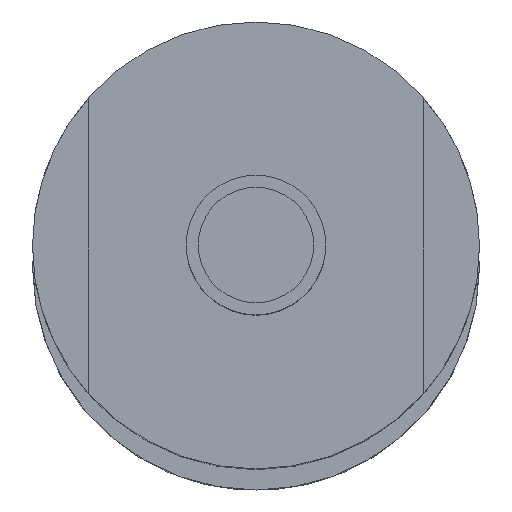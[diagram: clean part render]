
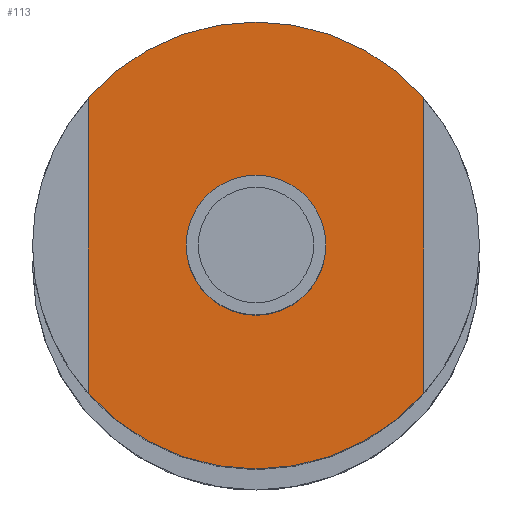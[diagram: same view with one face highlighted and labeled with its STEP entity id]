
A CAD part, top view. The second image highlights one B-rep face of the part: STEP entity #113.
In plain terms, the highlighted planar face has unit normal (0, 0, 1).
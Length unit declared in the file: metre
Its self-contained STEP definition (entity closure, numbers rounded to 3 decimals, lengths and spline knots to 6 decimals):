
#113=ADVANCED_FACE('17:304',(#222,#223),#224,.T.);
#222=FACE_BOUND('',#340,.T.);
#223=FACE_OUTER_BOUND('',#341,.T.);
#224=PLANE('',#342);
#340=EDGE_LOOP('',(#550,#551));
#341=EDGE_LOOP('',(#552,#553,#554,#555,#556,#557));
#342=AXIS2_PLACEMENT_3D('',#558,#559,#560);
#550=ORIENTED_EDGE('',*,*,#643,.T.);
#551=ORIENTED_EDGE('',*,*,#714,.T.);
#552=ORIENTED_EDGE('',*,*,#716,.F.);
#553=ORIENTED_EDGE('',*,*,#653,.F.);
#554=ORIENTED_EDGE('',*,*,#652,.F.);
#555=ORIENTED_EDGE('',*,*,#701,.T.);
#556=ORIENTED_EDGE('',*,*,#708,.F.);
#557=ORIENTED_EDGE('',*,*,#707,.F.);
#558=CARTESIAN_POINT('',(0.,0.,0.359));
#559=DIRECTION('',(0.0,0.0,1.0));
#560=DIRECTION('',(1.0,0.0,0.0));
#643=EDGE_CURVE('19:2123',#759,#756,#760,.F.);
#652=EDGE_CURVE('17:354',#774,#776,#777,.F.);
#653=EDGE_CURVE('17:345',#776,#778,#779,.F.);
#701=EDGE_CURVE('17:844',#774,#849,#850,.T.);
#707=EDGE_CURVE('17:351',#857,#859,#860,.F.);
#708=EDGE_CURVE('17:342',#859,#849,#861,.F.);
#714=EDGE_CURVE('',#756,#759,#867,.F.);
#716=EDGE_CURVE('17:790',#778,#857,#869,.F.);
#756=VERTEX_POINT('',#933);
#759=VERTEX_POINT('',#937);
#760=CIRCLE('',#938,0.0025);
#774=VERTEX_POINT('',#955);
#776=VERTEX_POINT('',#958);
#777=CIRCLE('',#959,0.008);
#778=VERTEX_POINT('',#960);
#779=CIRCLE('',#961,0.008);
#849=VERTEX_POINT('',#1046);
#850=LINE('',#1047,#1048);
#857=VERTEX_POINT('',#1057);
#859=VERTEX_POINT('',#1060);
#860=CIRCLE('',#1061,0.008);
#861=CIRCLE('',#1062,0.008);
#867=CIRCLE('',#1068,0.0025);
#869=LINE('',#1070,#1071);
#933=CARTESIAN_POINT('',(0.00239,0.000133,0.359));
#937=CARTESIAN_POINT('',(-0.00261,0.000133,0.359));
#938=AXIS2_PLACEMENT_3D('',#1144,#1145,#1146);
#955=CARTESIAN_POINT('',(-0.00611,0.005425,0.359));
#958=CARTESIAN_POINT('',(-0.00011,0.008133,0.359));
#959=AXIS2_PLACEMENT_3D('',#1160,#1161,#1162);
#960=CARTESIAN_POINT('',(0.00589,0.005425,0.359));
#961=AXIS2_PLACEMENT_3D('',#1163,#1164,#1165);
#1046=CARTESIAN_POINT('',(-0.00611,-0.005158,0.359));
#1047=CARTESIAN_POINT('',(-0.00611,0.000067,0.359));
#1048=VECTOR('',#1235,1.0);
#1057=CARTESIAN_POINT('',(0.00589,-0.005158,0.359));
#1060=CARTESIAN_POINT('',(-0.00011,-0.007867,0.359));
#1061=AXIS2_PLACEMENT_3D('',#1242,#1243,#1244);
#1062=AXIS2_PLACEMENT_3D('',#1245,#1246,#1247);
#1068=AXIS2_PLACEMENT_3D('',#1257,#1258,#1259);
#1070=CARTESIAN_POINT('',(0.00589,0.000067,0.359));
#1071=VECTOR('',#1260,1.0);
#1144=CARTESIAN_POINT('',(-0.00011,0.000133,0.359));
#1145=DIRECTION('',(0.0,0.0,1.0));
#1146=DIRECTION('',(1.0,0.0,-0.0));
#1160=CARTESIAN_POINT('',(-0.00011,0.000133,0.359));
#1161=DIRECTION('',(0.0,0.0,1.0));
#1162=DIRECTION('',(1.0,0.0,0.0));
#1163=CARTESIAN_POINT('',(-0.00011,0.000133,0.359));
#1164=DIRECTION('',(0.0,0.0,1.0));
#1165=DIRECTION('',(1.0,0.0,0.0));
#1235=DIRECTION('',(0.,-1.0,0.0));
#1242=CARTESIAN_POINT('',(-0.00011,0.000133,0.359));
#1243=DIRECTION('',(0.0,0.0,1.0));
#1244=DIRECTION('',(1.0,0.0,0.0));
#1245=CARTESIAN_POINT('',(-0.00011,0.000133,0.359));
#1246=DIRECTION('',(0.0,0.0,1.0));
#1247=DIRECTION('',(1.0,0.0,0.0));
#1257=CARTESIAN_POINT('',(-0.00011,0.000133,0.359));
#1258=DIRECTION('',(0.0,0.0,1.0));
#1259=DIRECTION('',(1.0,0.0,-0.0));
#1260=DIRECTION('',(0.,1.0,0.0));
